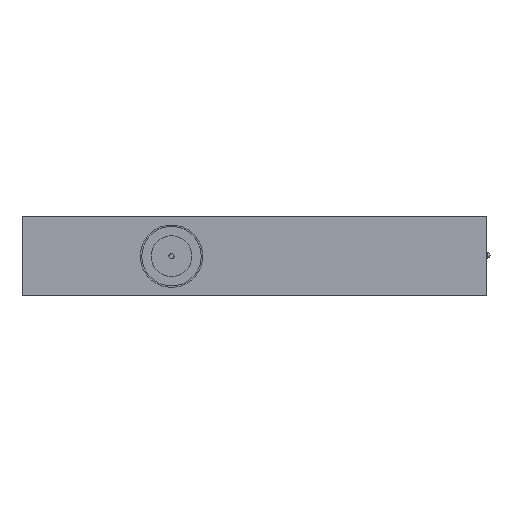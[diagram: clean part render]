
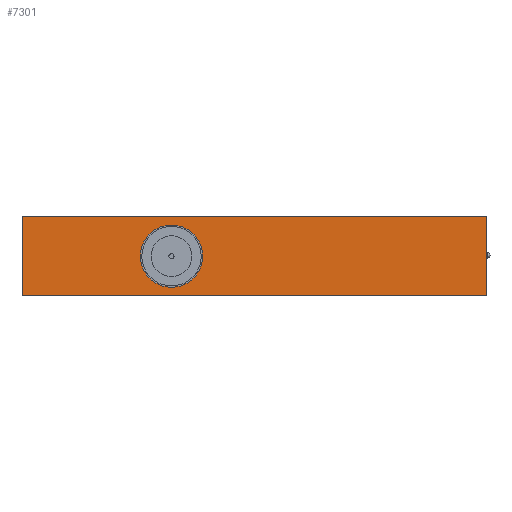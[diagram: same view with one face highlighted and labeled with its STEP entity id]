
A CAD part, front view. The second image highlights one B-rep face of the part: STEP entity #7301.
In plain terms, the highlighted planar face has unit normal (0, -1, 0).
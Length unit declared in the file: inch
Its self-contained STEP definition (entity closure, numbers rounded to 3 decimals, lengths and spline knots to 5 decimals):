
#505=FACE_BOUND('',#1737,.T.);
#728=CIRCLE('',#7864,0.055);
#1162=FACE_OUTER_BOUND('',#1736,.T.);
#1736=EDGE_LOOP('',(#6206,#6207,#6208,#6209));
#1737=EDGE_LOOP('',(#6210));
#2289=LINE('',#12703,#2826);
#2295=LINE('',#12712,#2832);
#2300=LINE('',#12788,#2837);
#2302=LINE('',#12792,#2839);
#2826=VECTOR('',#9486,0.3937);
#2832=VECTOR('',#9496,0.3937);
#2837=VECTOR('',#9597,0.3937);
#2839=VECTOR('',#9603,0.3937);
#3463=VERTEX_POINT('',#12700);
#3464=VERTEX_POINT('',#12702);
#3465=VERTEX_POINT('',#12710);
#3470=VERTEX_POINT('',#12731);
#3488=VERTEX_POINT('',#12787);
#4369=EDGE_CURVE('',#3464,#3463,#2289,.T.);
#4375=EDGE_CURVE('',#3465,#3463,#2295,.T.);
#4383=EDGE_CURVE('',#3470,#3470,#728,.T.);
#4401=EDGE_CURVE('',#3488,#3464,#2300,.T.);
#4403=EDGE_CURVE('',#3465,#3488,#2302,.T.);
#6206=ORIENTED_EDGE('',*,*,#4369,.T.);
#6207=ORIENTED_EDGE('',*,*,#4375,.F.);
#6208=ORIENTED_EDGE('',*,*,#4403,.T.);
#6209=ORIENTED_EDGE('',*,*,#4401,.T.);
#6210=ORIENTED_EDGE('',*,*,#4383,.T.);
#6465=PLANE('',#7903);
#7301=ADVANCED_FACE('',(#1162,#505),#6465,.T.);
#7864=AXIS2_PLACEMENT_3D('',#12732,#9521,#9522);
#7903=AXIS2_PLACEMENT_3D('',#12791,#9601,#9602);
#9486=DIRECTION('',(-1.,0.,0.));
#9496=DIRECTION('',(0.,0.,1.));
#9521=DIRECTION('center_axis',(0.,1.,0.));
#9522=DIRECTION('ref_axis',(1.,0.,0.));
#9597=DIRECTION('',(0.,0.,1.));
#9601=DIRECTION('center_axis',(0.,-1.,0.));
#9602=DIRECTION('ref_axis',(0.,0.,-1.));
#9603=DIRECTION('',(1.,0.,0.));
#12700=CARTESIAN_POINT('',(0.,0.,0.14));
#12702=CARTESIAN_POINT('',(0.8189,0.,0.14));
#12703=CARTESIAN_POINT('',(0.,0.,0.14));
#12710=CARTESIAN_POINT('',(0.,0.,0.));
#12712=CARTESIAN_POINT('',(0.,0.,0.));
#12731=CARTESIAN_POINT('',(0.31878,0.,0.06969));
#12732=CARTESIAN_POINT('Origin',(0.26378,0.,0.06969));
#12787=CARTESIAN_POINT('',(0.8189,0.,0.));
#12788=CARTESIAN_POINT('',(0.8189,0.,0.));
#12791=CARTESIAN_POINT('Origin',(0.8189,0.,
0.));
#12792=CARTESIAN_POINT('',(0.,0.,0.));
